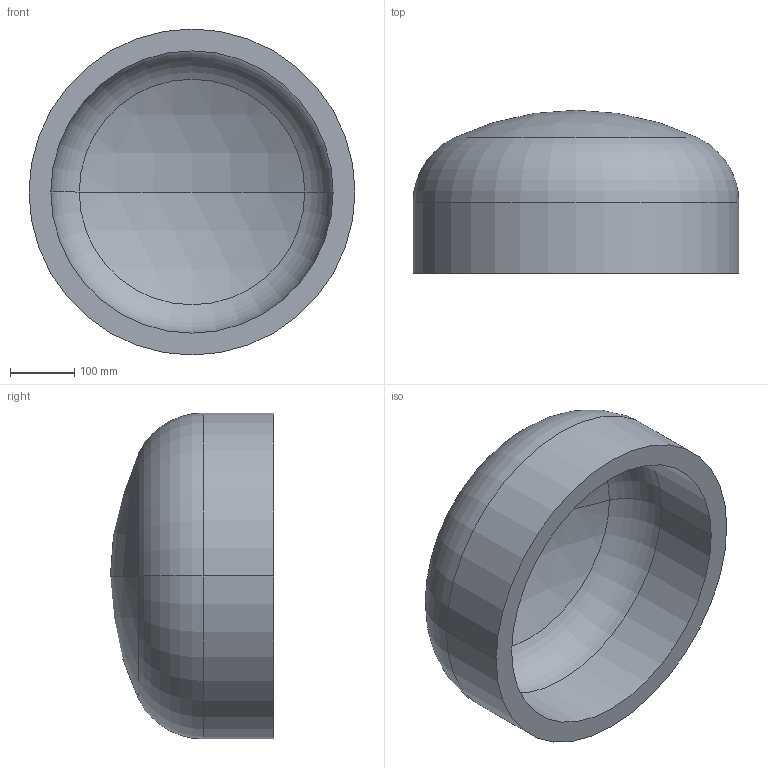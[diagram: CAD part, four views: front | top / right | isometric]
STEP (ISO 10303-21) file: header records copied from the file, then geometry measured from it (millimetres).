
FILE_DESCRIPTION (( 'STEP AP203' ), '1' );
FILE_NAME ('DIN 28013 Korbbogenform_-_Boden DIN 28013 - 508 x 110 - I - s=34.step', '2016-07-01T07:54:11', ( '' ), ( '' ), 'SwSTEP 2.0', 'SolidWorks 2013', '' );
FILE_SCHEMA (( 'CONFIG_CONTROL_DESIGN' ));
Length unit declared in the file: millimetre
Products named in the file (1): DIN 28013 Korbbogenform_-_Boden DIN 28013 - 508 x 110 - I - s=34
Bounding box: 508 x 254.33 x 508 mm (x, y, z)
Volume: 14332105.8 mm3; surface area: 896115.9 mm2
Topology: 1 solids, 1 shells, 13 faces, 24 edges, 14 vertices
Faces by surface type: torus 4, cylinder 4, sphere 4, plane 1
Entity records: 407 total; most frequent: DIRECTION 72, CARTESIAN_POINT 52, ORIENTED_EDGE 48, AXIS2_PLACEMENT_3D 34, EDGE_CURVE 24, CIRCLE 20, EDGE_LOOP 14, VERTEX_POINT 14
